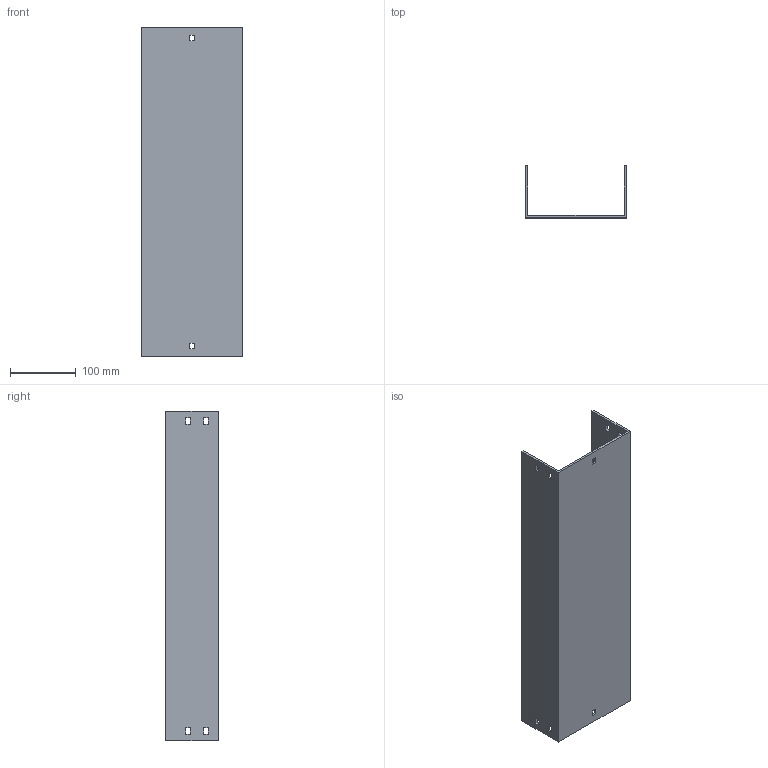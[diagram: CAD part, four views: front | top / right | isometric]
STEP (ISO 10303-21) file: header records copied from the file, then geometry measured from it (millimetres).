
FILE_DESCRIPTION (( 'STEP AP214' ), '1' );
FILE_NAME ('03F7C150.step', '2025-02-21T13:32:57', ( '' ), ( '' ), 'SwSTEP 2.0', 'SolidWorks 2023', '' );
FILE_SCHEMA (( 'AUTOMOTIVE_DESIGN' ));
Length unit declared in the file: millimetre
Products named in the file (1): 03F7C150
Bounding box: 154 x 79 x 500 mm (x, y, z)
Volume: 531380.5 mm3; surface area: 310450 mm2
Topology: 1 solids, 1 shells, 50 faces, 144 edges, 96 vertices
Faces by surface type: plane 50
Entity records: 1671 total; most frequent: CARTESIAN_POINT 291, ORIENTED_EDGE 288, DIRECTION 246, LINE 144, VECTOR 144, EDGE_CURVE 144, VERTEX_POINT 96, EDGE_LOOP 70
